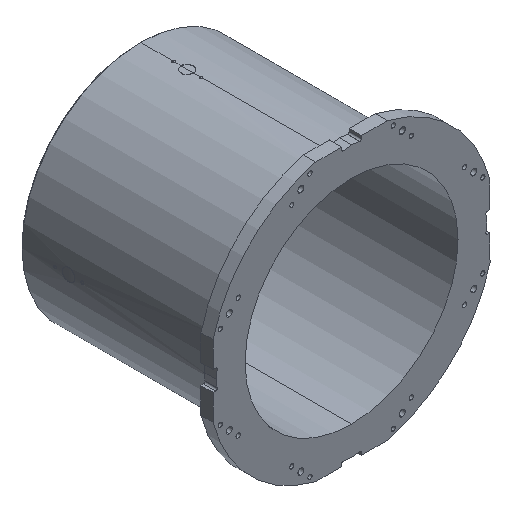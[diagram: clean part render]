
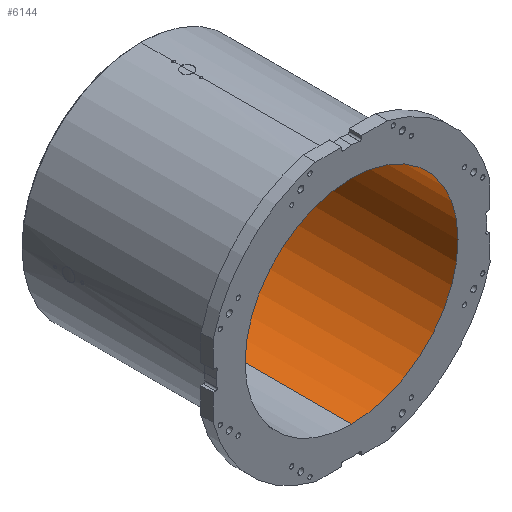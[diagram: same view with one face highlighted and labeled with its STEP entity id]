
A CAD part, isometric view. The second image highlights one B-rep face of the part: STEP entity #6144.
In plain terms, the highlighted cylindrical face has radius 350 mm (diameter 700 mm), a partial arc.
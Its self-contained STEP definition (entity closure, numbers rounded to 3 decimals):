
#362 = ORIENTED_EDGE ( 'NONE', *, *, #2492, .T. ) ;
#616 = CARTESIAN_POINT ( 'NONE',  ( 0., 0., -350. ) ) ;
#681 = CIRCLE ( 'NONE', #4798, 350. ) ;
#704 = EDGE_LOOP ( 'NONE', ( #7662, #11720, #362, #7674 ) ) ;
#707 = LINE ( 'NONE', #6584, #7260 ) ;
#714 = CARTESIAN_POINT ( 'NONE',  ( 0., 663., -350. ) ) ;
#869 = VECTOR ( 'NONE', #2474, 1000. ) ;
#1219 = CARTESIAN_POINT ( 'NONE',  ( 0., 0., 350. ) ) ;
#1462 = DIRECTION ( 'NONE',  ( 0., 1., 0. ) ) ;
#1758 = VERTEX_POINT ( 'NONE', #714 ) ;
#1823 = DIRECTION ( 'NONE',  ( 0., 1., 0. ) ) ;
#2474 = DIRECTION ( 'NONE',  ( 0., 1., 0. ) ) ;
#2492 = EDGE_CURVE ( 'NONE', #8729, #9901, #707, .T. ) ;
#2542 = LINE ( 'NONE', #616, #869 ) ;
#2668 = CARTESIAN_POINT ( 'NONE',  ( 0., 0., 0. ) ) ;
#4577 = FACE_OUTER_BOUND ( 'NONE', #704, .T. ) ;
#4798 = AXIS2_PLACEMENT_3D ( 'NONE', #2668, #1823, #5585 ) ;
#5028 = AXIS2_PLACEMENT_3D ( 'NONE', #10638, #8570, #9785 ) ;
#5475 = EDGE_CURVE ( 'NONE', #12754, #1758, #2542, .T. ) ;
#5489 = DIRECTION ( 'NONE',  ( 0., 1., 0. ) ) ;
#5545 = EDGE_CURVE ( 'NONE', #8729, #12754, #681, .T. ) ;
#5585 = DIRECTION ( 'NONE',  ( 0., 0., 1. ) ) ;
#6144 = ADVANCED_FACE ( 'NONE', ( #4577 ), #6448, .F. ) ;
#6448 = CYLINDRICAL_SURFACE ( 'NONE', #6874, 350. ) ;
#6571 = DIRECTION ( 'NONE',  ( 0., 0., 1. ) ) ;
#6584 = CARTESIAN_POINT ( 'NONE',  ( 0., 0., 350. ) ) ;
#6874 = AXIS2_PLACEMENT_3D ( 'NONE', #11374, #1462, #6571 ) ;
#7260 = VECTOR ( 'NONE', #5489, 1000. ) ;
#7662 = ORIENTED_EDGE ( 'NONE', *, *, #5475, .F. ) ;
#7674 = ORIENTED_EDGE ( 'NONE', *, *, #8329, .T. ) ;
#7725 = CIRCLE ( 'NONE', #5028, 350. ) ;
#7821 = CARTESIAN_POINT ( 'NONE',  ( 0., 663., 350. ) ) ;
#8329 = EDGE_CURVE ( 'NONE', #9901, #1758, #7725, .T. ) ;
#8570 = DIRECTION ( 'NONE',  ( 0., 1., 0. ) ) ;
#8729 = VERTEX_POINT ( 'NONE', #1219 ) ;
#9785 = DIRECTION ( 'NONE',  ( 0., 0., 1. ) ) ;
#9901 = VERTEX_POINT ( 'NONE', #7821 ) ;
#10638 = CARTESIAN_POINT ( 'NONE',  ( 0., 663., 0. ) ) ;
#11182 = CARTESIAN_POINT ( 'NONE',  ( 0., 0., -350. ) ) ;
#11374 = CARTESIAN_POINT ( 'NONE',  ( 0., 0., 0. ) ) ;
#11720 = ORIENTED_EDGE ( 'NONE', *, *, #5545, .F. ) ;
#12754 = VERTEX_POINT ( 'NONE', #11182 ) ;
